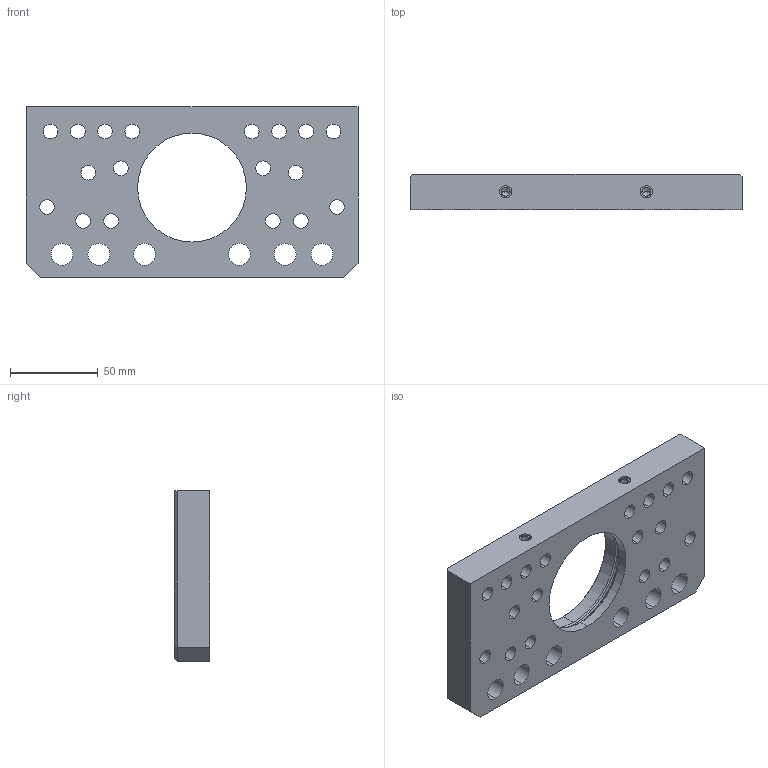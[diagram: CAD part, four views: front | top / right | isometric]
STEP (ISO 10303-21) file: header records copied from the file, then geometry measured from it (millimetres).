
FILE_DESCRIPTION((''),'2;1');
FILE_NAME('FG_VC_ACCES_SCMPVNP001','2026-03-16T12:40:20',('Admin'),(''),'CREO PARAMETRIC BY PTC INC, 2025010','CREO PARAMETRIC BY PTC INC, 2025010','');
FILE_SCHEMA(('CONFIG_CONTROL_DESIGN'));
Length unit declared in the file: millimetre
Products named in the file (1): FG_VC_ACCES_SCMPVNP001
Bounding box: 189 x 20 x 97 mm (x, y, z)
Volume: 238344.7 mm3; surface area: 58706.3 mm2
Topology: 1 solids, 1 shells, 272 faces, 709 edges, 460 vertices
Faces by surface type: cylinder 164, plane 54, cone 52, torus 2
Entity records: 8737 total; most frequent: CARTESIAN_POINT 1655, DIRECTION 1591, ORIENTED_EDGE 1410, EDGE_CURVE 705, AXIS2_PLACEMENT_3D 664, VERTEX_POINT 460, CIRCLE 392, EDGE_LOOP 347
